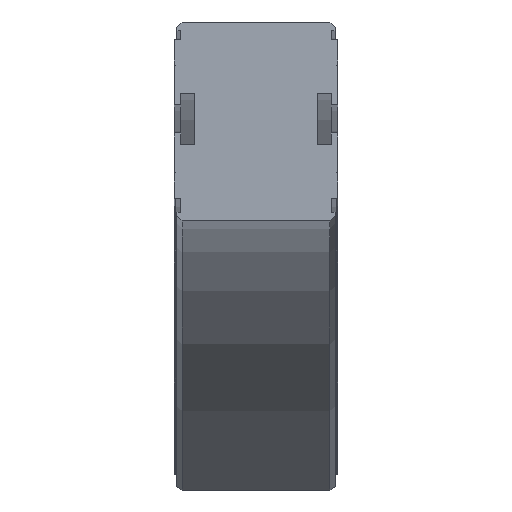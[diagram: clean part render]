
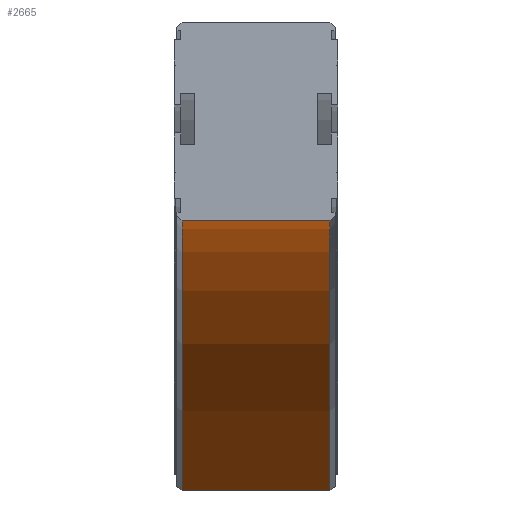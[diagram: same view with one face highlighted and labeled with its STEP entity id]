
A CAD part, left-side view. The second image highlights one B-rep face of the part: STEP entity #2665.
In plain terms, the highlighted cylindrical face has radius 360 mm (diameter 720 mm), a partial arc.
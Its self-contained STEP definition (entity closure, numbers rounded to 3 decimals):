
#2607=CARTESIAN_POINT('',(254.558,29.,-183.442));
#2608=VERTEX_POINT('',#2607);
#2615=CARTESIAN_POINT('',(0.0,29.,-78.));
#2616=VERTEX_POINT('',#2615);
#2617=CARTESIAN_POINT('',(0.,29.,-438.0));
#2618=DIRECTION('',(0.0,1.0,0.0));
#2619=DIRECTION('',(0.0,0.0,1.0));
#2620=AXIS2_PLACEMENT_3D('',#2617,#2618,#2619);
#2621=CIRCLE('',#2620,360.);
#2622=EDGE_CURVE('',#2616,#2608,#2621,.T.);
#2634=CARTESIAN_POINT('',(0.,0.,-438.0));
#2635=DIRECTION('',(0.0,1.0,0.0));
#2636=DIRECTION('',(0.0,0.0,1.0));
#2637=AXIS2_PLACEMENT_3D('',#2634,#2635,#2636);
#2638=CYLINDRICAL_SURFACE('',#2637,360.);
#2639=CARTESIAN_POINT('',(254.558,-29.,-183.442));
#2640=VERTEX_POINT('',#2639);
#2641=CARTESIAN_POINT('',(254.558,29.,-183.442));
#2642=DIRECTION('',(0.0,-1.0,0.0));
#2643=VECTOR('',#2642,58.);
#2644=LINE('',#2641,#2643);
#2645=EDGE_CURVE('',#2608,#2640,#2644,.T.);
#2646=ORIENTED_EDGE('',*,*,#2645,.T.);
#2647=CARTESIAN_POINT('',(0.0,-29.,-78.));
#2648=VERTEX_POINT('',#2647);
#2649=CARTESIAN_POINT('',(0.,-29.,-438.0));
#2650=DIRECTION('',(0.0,1.0,0.0));
#2651=DIRECTION('',(0.0,0.0,1.0));
#2652=AXIS2_PLACEMENT_3D('',#2649,#2650,#2651);
#2653=CIRCLE('',#2652,360.);
#2654=EDGE_CURVE('',#2648,#2640,#2653,.T.);
#2655=ORIENTED_EDGE('',*,*,#2654,.F.);
#2656=CARTESIAN_POINT('',(0.0,-29.,-78.));
#2657=DIRECTION('',(0.0,1.0,0.0));
#2658=VECTOR('',#2657,58.);
#2659=LINE('',#2656,#2658);
#2660=EDGE_CURVE('',#2648,#2616,#2659,.T.);
#2661=ORIENTED_EDGE('',*,*,#2660,.T.);
#2662=ORIENTED_EDGE('',*,*,#2622,.T.);
#2663=EDGE_LOOP('',(#2646,#2655,#2661,#2662));
#2664=FACE_OUTER_BOUND('',#2663,.T.);
#2665=ADVANCED_FACE('',(#2664),#2638,.F.);
